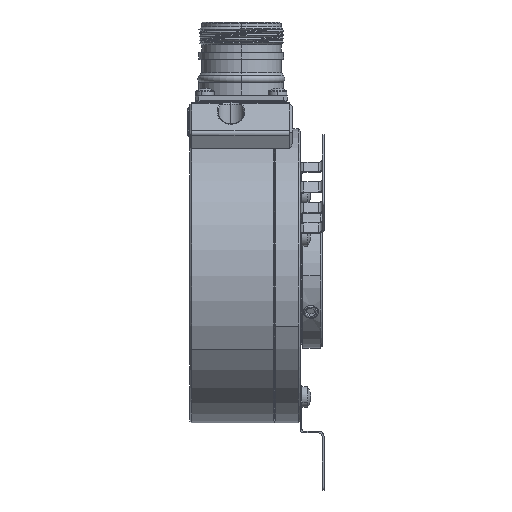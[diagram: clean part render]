
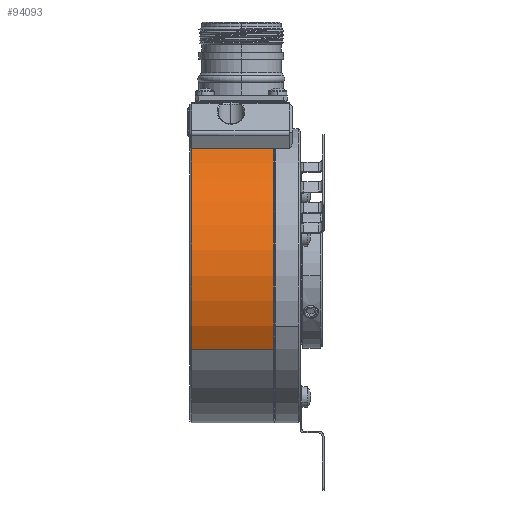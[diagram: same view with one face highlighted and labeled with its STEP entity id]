
A CAD part, left-side view. The second image highlights one B-rep face of the part: STEP entity #94093.
In plain terms, the highlighted cylindrical face has radius 40 mm (diameter 80 mm), a partial arc.
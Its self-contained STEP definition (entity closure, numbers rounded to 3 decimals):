
#2127 = EDGE_LOOP ( 'NONE', ( #106901, #82652, #109338, #22419 ) ) ;
#4080 = DIRECTION ( 'NONE',  ( 0., -1., 0. ) ) ;
#6074 = DIRECTION ( 'NONE',  ( 0., -1., 0. ) ) ;
#6351 = DIRECTION ( 'NONE',  ( 0., 1., 0. ) ) ;
#11838 = CARTESIAN_POINT ( 'NONE',  ( -34.641, 29.5, -20. ) ) ;
#14796 = AXIS2_PLACEMENT_3D ( 'NONE', #99835, #25788, #98597 ) ;
#21871 = VERTEX_POINT ( 'NONE', #51319 ) ;
#22419 = ORIENTED_EDGE ( 'NONE', *, *, #107261, .T. ) ;
#22893 = EDGE_CURVE ( 'NONE', #90914, #21871, #116368, .T. ) ;
#25788 = DIRECTION ( 'NONE',  ( 0., 1., 0. ) ) ;
#29251 = VERTEX_POINT ( 'NONE', #115968 ) ;
#32798 = CARTESIAN_POINT ( 'NONE',  ( -34.641, 7.2, -20. ) ) ;
#37420 = CIRCLE ( 'NONE', #45276, 40. ) ;
#42562 = EDGE_CURVE ( 'NONE', #106651, #90914, #82579, .T. ) ;
#45276 = AXIS2_PLACEMENT_3D ( 'NONE', #81123, #52983, #72545 ) ;
#50046 = CYLINDRICAL_SURFACE ( 'NONE', #74573, 40. ) ;
#51319 = CARTESIAN_POINT ( 'NONE',  ( -20., 7.2, 34.641 ) ) ;
#52908 = LINE ( 'NONE', #90220, #69991 ) ;
#52983 = DIRECTION ( 'NONE',  ( 0., -1., 0. ) ) ;
#69019 = CARTESIAN_POINT ( 'NONE',  ( 0., 7., 0. ) ) ;
#69991 = VECTOR ( 'NONE', #6351, 1000. ) ;
#72545 = DIRECTION ( 'NONE',  ( 0.866, 0., 0.5 ) ) ;
#74573 = AXIS2_PLACEMENT_3D ( 'NONE', #69019, #4080, #79983 ) ;
#77125 = VECTOR ( 'NONE', #6074, 1000. ) ;
#79983 = DIRECTION ( 'NONE',  ( 0.866, 0., 0.5 ) ) ;
#81123 = CARTESIAN_POINT ( 'NONE',  ( 0., 29.5, 0. ) ) ;
#82579 = LINE ( 'NONE', #92366, #77125 ) ;
#82652 = ORIENTED_EDGE ( 'NONE', *, *, #42562, .T. ) ;
#90220 = CARTESIAN_POINT ( 'NONE',  ( -20., 2., 34.641 ) ) ;
#90914 = VERTEX_POINT ( 'NONE', #32798 ) ;
#92366 = CARTESIAN_POINT ( 'NONE',  ( -34.641, 7., -20. ) ) ;
#94093 = ADVANCED_FACE ( 'NONE', ( #104472 ), #50046, .T. ) ;
#98597 = DIRECTION ( 'NONE',  ( -0.866, 0., -0.5 ) ) ;
#99835 = CARTESIAN_POINT ( 'NONE',  ( 0., 7.2, 0. ) ) ;
#104472 = FACE_OUTER_BOUND ( 'NONE', #2127, .T. ) ;
#106651 = VERTEX_POINT ( 'NONE', #11838 ) ;
#106901 = ORIENTED_EDGE ( 'NONE', *, *, #110515, .T. ) ;
#107261 = EDGE_CURVE ( 'NONE', #21871, #29251, #52908, .T. ) ;
#109338 = ORIENTED_EDGE ( 'NONE', *, *, #22893, .T. ) ;
#110515 = EDGE_CURVE ( 'NONE', #29251, #106651, #37420, .T. ) ;
#115968 = CARTESIAN_POINT ( 'NONE',  ( -20., 29.5, 34.641 ) ) ;
#116368 = CIRCLE ( 'NONE', #14796, 40. ) ;
